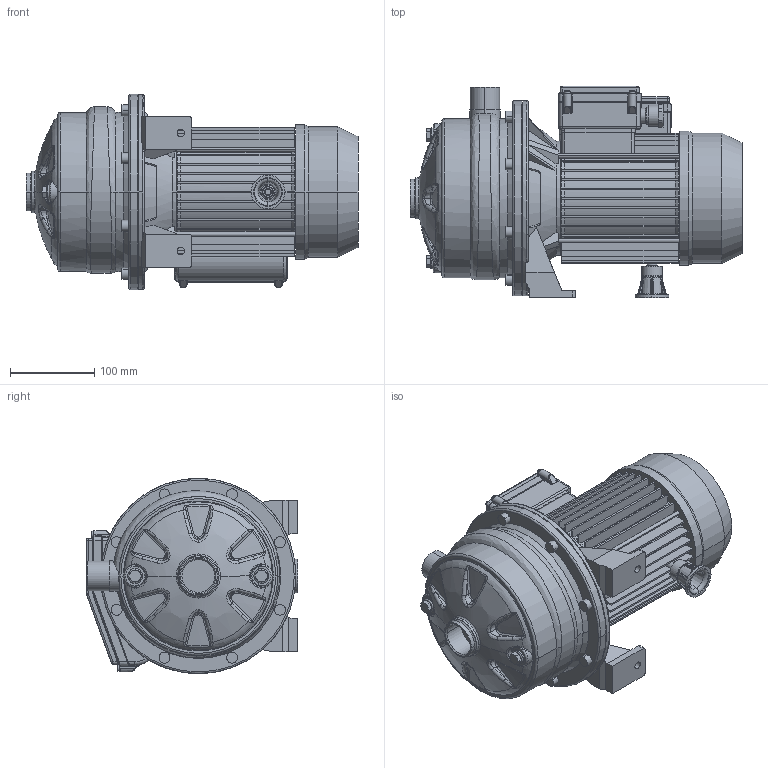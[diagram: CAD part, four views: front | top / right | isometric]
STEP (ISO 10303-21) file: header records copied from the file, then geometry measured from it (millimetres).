
FILE_DESCRIPTION((''),'2;1');
FILE_NAME('2CDXM_70_15_ASM','2019-04-05T',('rosa'),('"Ebara Pumps Europe +39.444.706811"'),'PRO/ENGINEER BY PARAMETRIC TECHNOLOGY CORPORATION, 2017170','PRO/ENGINEER BY PARAMETRIC TECHNOLOGY CORPORATION, 2017170','');
FILE_SCHEMA(('AUTOMOTIVE_DESIGN { 1 0 10303 214 1 1 1 1 }'));
Products named in the file (7): MEC_80_PACCO110_120_MONOFASE; COPRIMORSETTIERA_MEC80_90_M; 80563; 251420692; 72011; 72013; 2CDXM_70_15_ASM
Assembly tree (6 placements, depth 2):
  2CDXM_70_15_ASM
    MEC_80_PACCO110_120_MONOFASE
    COPRIMORSETTIERA_MEC80_90_M
    80563
    251420692
    72011
    72013
Bounding box: 394.5 x 251 x 232 mm (x, y, z)
Volume: 6051409.9 mm3; surface area: 720993.2 mm2
Topology: 6 solids, 6 shells, 1240 faces, 2940 edges, 1758 vertices
Faces by surface type: plane 454, cylinder 299, bspline 230, cone 136, torus 113, sphere 8
Entity records: 57302 total; most frequent: CARTESIAN_POINT 20129, ORIENTED_EDGE 5880, DIRECTION 5375, EDGE_CURVE 2940, PRESENTATION_STYLE_ASSIGNMENT 2889, STYLED_ITEM 2889, CURVE_STYLE 2884, AXIS2_PLACEMENT_3D 2152
